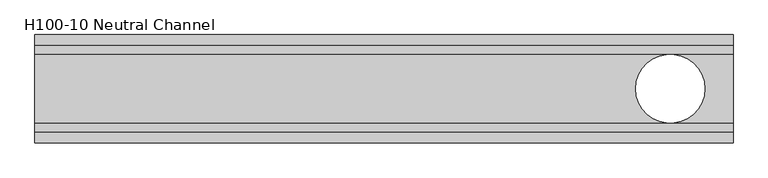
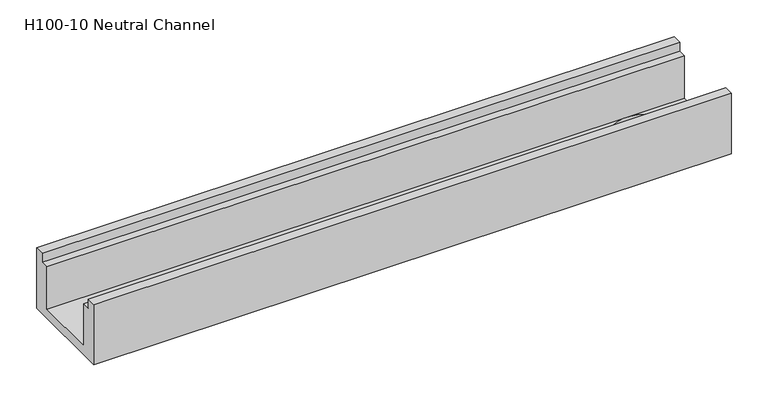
"""IFC4 building model written with IfcOpenShell, lengths in millimetres: sanitary terminal geometry, PF_ST_Slabdrain_H100_channels_USA_ACO : H100-10 Neutral Channel."""

from ifc_helpers import new_model, si_unit, frame, origin, place, context, project, spatial, polyline, circle_curve, source, transform, mapped, element, save
from ifc_brep_helpers import plane_surface, revolved_surface, advanced_brep


def h100_10_neutral_channel_a94963c2(model_context):
    return source(origin(), model_context, "Body", "AdvancedBrep", [
        advanced_brep(
        [(-605.6196554, 62.5, -15.0), (-605.6196554, 49.9996414, -15.0), (-605.6196554, 49.9996414, -85.0), (-605.6196554, -49.9996414, -85.0), (-605.6196554, -49.9996414, -15.0), (-605.6196554, -62.5, -15.0), (-605.6196554, -62.5, 0.0), (-605.6196554, -77.5, 0.0), (-605.6196554, -77.5, -100.0), (-605.6196554, 77.5, -100.0), (-605.6196554, 77.5, 0.0), (-605.6196554, 62.5, 0.0), (-1605.6176554, 62.5, -15.0), (-1605.6176554, 62.5, 0.0), (-1605.6176554, 77.5, 0.0), (-1605.6176554, 77.5, -100.0), (-1605.6176554, -77.5, -100.0), (-1605.6176554, -77.5, 0.0), (-1605.6176554, -62.5, 0.0), (-1605.6176554, -62.5, -15.0), (-1605.6176554, -49.9990295, -15.0), (-1605.6176554, -49.9990295, -85.0), (-1605.6176554, 49.9990295, -85.0), (-1605.6176554, 49.9990295, -15.0), (-745.1196554, 0.0, -100.0), (-646.1196554, 0.0, -100.0), (-646.1196554, 0.0, -85.0), (-745.1196554, 0.0, -85.0)],
        [
            (0, 1),
            (1, 2),
            (2, 3),
            (3, 4),
            (4, 5),
            (5, 6),
            (6, 7),
            (7, 8),
            (8, 9),
            (9, 10),
            (10, 11),
            (11, 0),
            (12, 13),
            (13, 14),
            (14, 15),
            (15, 16),
            (16, 17),
            (17, 18),
            (18, 19),
            (19, 20),
            (20, 21),
            (21, 22),
            (22, 23),
            (23, 12),
            (0, 12),
            (23, 1),
            (4, 20),
            (19, 5),
            (7, 17),
            (16, 8),
            (15, 9),
            (24, 25, circle_curve(frame((-695.6196554, 0.0, -100.0), z_axis=(0.0, 0.0, 1.0), x_axis=(1.0, 0.0, 0.0)), 49.5)),
            (25, 24, circle_curve(frame((-695.6196554, 0.0, -100.0), z_axis=(0.0, 0.0, 1.0), x_axis=(1.0, 0.0, 0.0)), 49.5)),
            (14, 10),
            (22, 2),
            (21, 3),
            (26, 27, circle_curve(frame((-695.6196554, 0.0, -85.0), z_axis=(0.0, 0.0, -1.0), x_axis=(1.0, 0.0, 0.0)), 49.5)),
            (27, 26, circle_curve(frame((-695.6196554, 0.0, -85.0), z_axis=(0.0, 0.0, -1.0), x_axis=(1.0, 0.0, 0.0)), 49.5)),
            (26, 25),
            (24, 27),
            (18, 6),
            (13, 11),
        ],
        [
            plane_surface(frame((-605.6196554, 0.0, -35.8333333), z_axis=(1.0, 0.0, 0.0), x_axis=(0.0, -1.0, 0.0))),
            plane_surface(frame((-1605.6176554, 0.0, -35.8333333), z_axis=(-1.0, 0.0, 0.0), x_axis=(0.0, -1.0, 0.0))),
            plane_surface(frame((-1605.6176554, 56.2495148, -15.0), z_axis=(0.0, 0.0, 1.0), x_axis=(0.0, -1.0, 0.0))),
            plane_surface(frame((-1605.6176554, -56.2495148, -15.0), z_axis=(0.0, 0.0, 1.0), x_axis=(0.0, -1.0, 0.0))),
            plane_surface(frame((-1605.6176554, -77.5, -50.0), z_axis=(0.0, -1.0, 0.0), x_axis=(0.0, 0.0, -1.0))),
            plane_surface(frame((-1605.6176554, 0.0, -100.0), z_axis=(0.0, 0.0, -1.0), x_axis=(0.0, 1.0, 0.0))),
            plane_surface(frame((-1605.6176554, 77.5, -50.0), z_axis=(0.0, 1.0, 0.0), x_axis=(0.0, 0.0, 1.0))),
            plane_surface(frame((-1605.6176554, 49.9990295, -50.0), z_axis=(6.118709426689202e-07, -0.9999999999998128, 0.0), x_axis=(0.0, 0.0, -1.0))),
            plane_surface(frame((-1605.6176554, 0.0, -85.0), z_axis=(0.0, 0.0, 1.0), x_axis=(0.0, -1.0, 0.0))),
            plane_surface(frame((-1605.6176554, -49.9990295, -50.0), z_axis=(6.118709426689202e-07, 0.9999999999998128, 0.0), x_axis=(0.0, 0.0, 1.0))),
            revolved_surface(polyline([(-646.1196554, 0.0, -100.0), (-646.1196554, 0.0, -85.0)]), (-695.6196554, 0.0, 0.0), (0.0, 0.0, -1.0)),
            plane_surface(frame((-1605.6176554, -62.5, -7.5), z_axis=(0.0, 1.0, 0.0), x_axis=(0.0, 0.0, 1.0))),
            plane_surface(frame((-1605.6176554, -70.0, 0.0), z_axis=(0.0, 0.0, 1.0), x_axis=(0.0, -1.0, 0.0))),
            plane_surface(frame((-1605.6176554, 70.0, 0.0), z_axis=(0.0, 0.0, 1.0), x_axis=(0.0, -1.0, 0.0))),
            plane_surface(frame((-1605.6176554, 62.5, -7.5), z_axis=(0.0, -1.0, 0.0), x_axis=(0.0, 0.0, -1.0))),
        ],
        [
            (0, [[1, 2, 3, 4, 5, 6, 7, 8, 9, 10, 11, 12]]),
            (1, [[13, 14, 15, 16, 17, 18, 19, 20, 21, 22, 23, 24]]),
            (2, [[-1, 25, -24, 26]]),
            (3, [[-5, 27, -20, 28]]),
            (4, [[-8, 29, -17, 30]]),
            (5, [[-9, -30, -16, 31], [32, 33]]),
            (6, [[-10, -31, -15, 34]]),
            (7, [[-2, -26, -23, 35]]),
            (8, [[-3, -35, -22, 36], [37, 38]]),
            (9, [[-4, -36, -21, -27]]),
            (10, [[39, -32, 40, -37]]),
            (10, [[-39, -38, -40, -33]]),
            (11, [[-6, -28, -19, 41]]),
            (12, [[-7, -41, -18, -29]]),
            (13, [[-11, -34, -14, 42]]),
            (14, [[-12, -42, -13, -25]]),
        ],
    ),
    ])


if __name__ == "__main__":
    model = new_model("IFC4")
    model_context = context("Model", 3, world=origin())
    ifc_project = project(units=[si_unit("LENGTHUNIT", "METRE", prefix="MILLI")], contexts=[model_context])
    site = spatial("IfcSite", under=ifc_project)
    building = spatial("IfcBuilding", under=site)
    placement = place(None, origin())
    h100_10_neutral_channel_shape = h100_10_neutral_channel_a94963c2(model_context)
    element("IfcSanitaryTerminal", 1, ObjectType="PF_ST_Slabdrain_H100_channels_USA_ACO : H100-10 Neutral Channel", at=placement, inside=building, context=model_context, shape_type="MappedRepresentation", body=[
        mapped(h100_10_neutral_channel_shape, transform((0.0, 0.0, 0.0), x_axis=(1.0, 0.0, 0.0), y_axis=(0.0, 1.0, 0.0), z_axis=(0.0, 0.0, 1.0))),
    ])
    save(model, "model.ifc")
